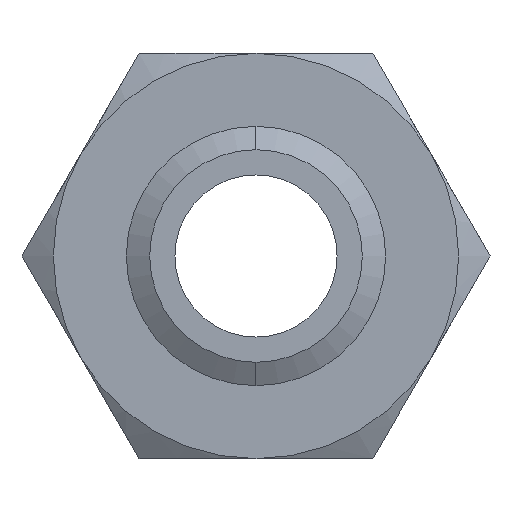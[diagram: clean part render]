
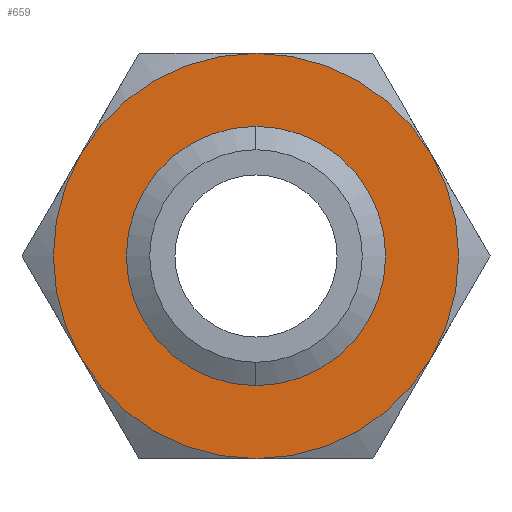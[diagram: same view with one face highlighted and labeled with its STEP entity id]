
A CAD part, front view. The second image highlights one B-rep face of the part: STEP entity #659.
In plain terms, the highlighted planar face has unit normal (0, -1, 0).
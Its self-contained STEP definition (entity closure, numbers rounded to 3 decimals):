
#1 = VERTEX_POINT ( 'NONE', #159 ) ;
#3 = EDGE_CURVE ( 'NONE', #9, #1, #486, .T. ) ;
#9 = VERTEX_POINT ( 'NONE', #478 ) ;
#159 = CARTESIAN_POINT ( 'NONE',  ( 0., 0., 19.67 ) ) ;
#321 = VERTEX_POINT ( 'NONE', #1043 ) ;
#323 = VERTEX_POINT ( 'NONE', #1042 ) ;
#350 = ORIENTED_EDGE ( 'NONE', *, *, #1928, .F. ) ;
#370 = EDGE_CURVE ( 'NONE', #321, #323, #1161, .T. ) ;
#371 = EDGE_LOOP ( 'NONE', ( #372, #350, #1926, #1933, #1963, #1952 ) ) ;
#372 = ORIENTED_EDGE ( 'NONE', *, *, #370, .F. ) ;
#478 = CARTESIAN_POINT ( 'NONE',  ( 0., 0., -19.67 ) ) ;
#482 = DIRECTION ( 'NONE',  ( 0., 0., -1. ) ) ;
#483 = DIRECTION ( 'NONE',  ( 0., -1., 0. ) ) ;
#484 = CARTESIAN_POINT ( 'NONE',  ( 0., 0., 0. ) ) ;
#485 = AXIS2_PLACEMENT_3D ( 'NONE', #484, #483, #482 ) ;
#486 = CIRCLE ( 'NONE', #485, 19.67 ) ;
#659 = ADVANCED_FACE ( 'NONE', ( #1311, #1310 ), #1309, .F. ) ;
#1042 = CARTESIAN_POINT ( 'NONE',  ( 32.476, 0., 18.75 ) ) ;
#1043 = CARTESIAN_POINT ( 'NONE',  ( 0., 0., 37.5 ) ) ;
#1157 = DIRECTION ( 'NONE',  ( 0., 0., 1. ) ) ;
#1158 = DIRECTION ( 'NONE',  ( 0., 1., 0. ) ) ;
#1159 = CARTESIAN_POINT ( 'NONE',  ( 0., 0., 0. ) ) ;
#1160 = AXIS2_PLACEMENT_3D ( 'NONE', #1159, #1158, #1157 ) ;
#1161 = CIRCLE ( 'NONE', #1160, 37.5 ) ;
#1308 = DIRECTION ( 'NONE',  ( 0., 1., 0. ) ) ;
#1309 = PLANE ( 'NONE',  #1367 ) ;
#1310 = FACE_BOUND ( 'NONE', #1938, .T. ) ;
#1311 = FACE_OUTER_BOUND ( 'NONE', #371, .T. ) ;
#1364 = DIRECTION ( 'NONE',  ( 0., 0., 1. ) ) ;
#1366 = CARTESIAN_POINT ( 'NONE',  ( 21.651, 0., -37.5 ) ) ;
#1367 = AXIS2_PLACEMENT_3D ( 'NONE', #1366, #1308, #1364 ) ;
#1404 = CARTESIAN_POINT ( 'NONE',  ( 32.476, 0., -18.75 ) ) ;
#1407 = CARTESIAN_POINT ( 'NONE',  ( 0., 0., -37.5 ) ) ;
#1427 = DIRECTION ( 'NONE',  ( 0., 0., 1. ) ) ;
#1429 = DIRECTION ( 'NONE',  ( 0., 1., 0. ) ) ;
#1430 = CARTESIAN_POINT ( 'NONE',  ( 0., 0., 0. ) ) ;
#1431 = AXIS2_PLACEMENT_3D ( 'NONE', #1430, #1429, #1427 ) ;
#1432 = CIRCLE ( 'NONE', #1431, 37.5 ) ;
#1433 = DIRECTION ( 'NONE',  ( 0., 0., 1. ) ) ;
#1434 = DIRECTION ( 'NONE',  ( 0., 1., 0. ) ) ;
#1435 = CARTESIAN_POINT ( 'NONE',  ( 0., 0., 0. ) ) ;
#1436 = AXIS2_PLACEMENT_3D ( 'NONE', #1435, #1434, #1433 ) ;
#1437 = CIRCLE ( 'NONE', #1436, 37.5 ) ;
#1438 = CARTESIAN_POINT ( 'NONE',  ( -32.476, 0., -18.75 ) ) ;
#1439 = CARTESIAN_POINT ( 'NONE',  ( -32.476, 0., 18.75 ) ) ;
#1440 = DIRECTION ( 'NONE',  ( 0., 0., 1. ) ) ;
#1441 = DIRECTION ( 'NONE',  ( 0., 1., 0. ) ) ;
#1442 = CARTESIAN_POINT ( 'NONE',  ( 0., 0., 0. ) ) ;
#1443 = AXIS2_PLACEMENT_3D ( 'NONE', #1442, #1441, #1440 ) ;
#1444 = CIRCLE ( 'NONE', #1443, 37.5 ) ;
#1456 = DIRECTION ( 'NONE',  ( 0., 0., 1. ) ) ;
#1457 = DIRECTION ( 'NONE',  ( 0., 1., 0. ) ) ;
#1458 = CARTESIAN_POINT ( 'NONE',  ( 0., 0., 0. ) ) ;
#1459 = AXIS2_PLACEMENT_3D ( 'NONE', #1458, #1457, #1456 ) ;
#1460 = CIRCLE ( 'NONE', #1459, 37.5 ) ;
#1461 = DIRECTION ( 'NONE',  ( 0., 0., -1. ) ) ;
#1462 = DIRECTION ( 'NONE',  ( 0., -1., 0. ) ) ;
#1463 = AXIS2_PLACEMENT_3D ( 'NONE', #1468, #1462, #1461 ) ;
#1464 = CIRCLE ( 'NONE', #1463, 19.67 ) ;
#1468 = CARTESIAN_POINT ( 'NONE',  ( 0., 0., 0. ) ) ;
#1510 = DIRECTION ( 'NONE',  ( 0., 0., 1. ) ) ;
#1511 = DIRECTION ( 'NONE',  ( 0., 1., 0. ) ) ;
#1512 = CARTESIAN_POINT ( 'NONE',  ( 0., 0., 0. ) ) ;
#1513 = AXIS2_PLACEMENT_3D ( 'NONE', #1512, #1511, #1510 ) ;
#1514 = CIRCLE ( 'NONE', #1513, 37.5 ) ;
#1916 = VERTEX_POINT ( 'NONE', #1407 ) ;
#1917 = VERTEX_POINT ( 'NONE', #1404 ) ;
#1926 = ORIENTED_EDGE ( 'NONE', *, *, #1932, .F. ) ;
#1928 = EDGE_CURVE ( 'NONE', #1930, #321, #1444, .T. ) ;
#1930 = VERTEX_POINT ( 'NONE', #1439 ) ;
#1931 = VERTEX_POINT ( 'NONE', #1438 ) ;
#1932 = EDGE_CURVE ( 'NONE', #1931, #1930, #1437, .T. ) ;
#1933 = ORIENTED_EDGE ( 'NONE', *, *, #1934, .F. ) ;
#1934 = EDGE_CURVE ( 'NONE', #1916, #1931, #1432, .T. ) ;
#1935 = ORIENTED_EDGE ( 'NONE', *, *, #1950, .F. ) ;
#1938 = EDGE_LOOP ( 'NONE', ( #1940, #1935 ) ) ;
#1940 = ORIENTED_EDGE ( 'NONE', *, *, #3, .F. ) ;
#1950 = EDGE_CURVE ( 'NONE', #1, #9, #1464, .T. ) ;
#1951 = EDGE_CURVE ( 'NONE', #323, #1917, #1460, .T. ) ;
#1952 = ORIENTED_EDGE ( 'NONE', *, *, #1951, .F. ) ;
#1960 = EDGE_CURVE ( 'NONE', #1917, #1916, #1514, .T. ) ;
#1963 = ORIENTED_EDGE ( 'NONE', *, *, #1960, .F. ) ;
